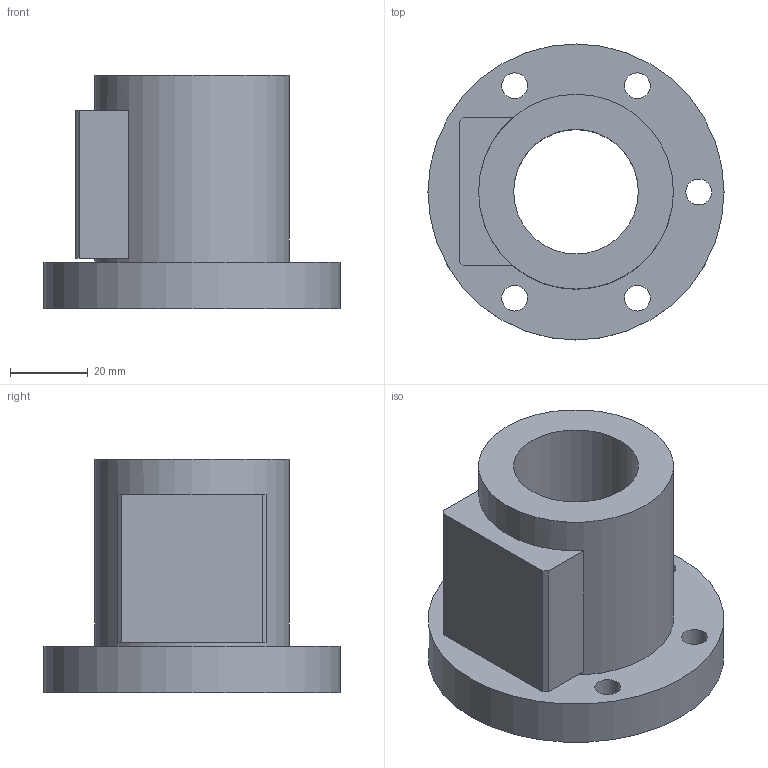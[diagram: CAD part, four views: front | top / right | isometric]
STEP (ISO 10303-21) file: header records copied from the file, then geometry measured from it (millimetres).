
FILE_DESCRIPTION(/* description */ (''),/* implementation_level */ '2;1');
FILE_NAME(/* name */ '32-5B2',/* time_stamp */ '2006-07-31T10:00:03+08:00',/* author */ (''),/* organization */ (''),/* preprocessor_version */ 'ST-DEVELOPER v9',/* originating_system */ 'UGS - NX 4.0',/* authorisation */ '');
FILE_SCHEMA (('CONFIG_CONTROL_DESIGN'));
Length unit declared in the file: millimetre
Products named in the file (1): 32-5B2
Bounding box: 76 x 76 x 60 mm (x, y, z)
Volume: 107448.2 mm3; surface area: 26638.2 mm2
Topology: 1 solids, 1 shells, 28 faces, 61 edges, 42 vertices
Faces by surface type: plane 15, cylinder 13
Full cylindrical faces by diameter (mm): 6.6 x5, 11 x5, 32 x1, 50 x1, 76 x1
Entity records: 794 total; most frequent: DIRECTION 130, CARTESIAN_POINT 111, ORIENTED_EDGE 88, EDGE_LOOP 60, AXIS2_PLACEMENT_3D 57, FACE_BOUND 45, EDGE_CURVE 44, VERTEX_POINT 38
